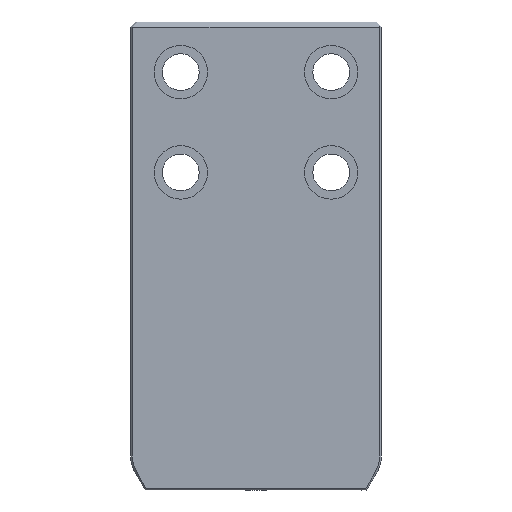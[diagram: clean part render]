
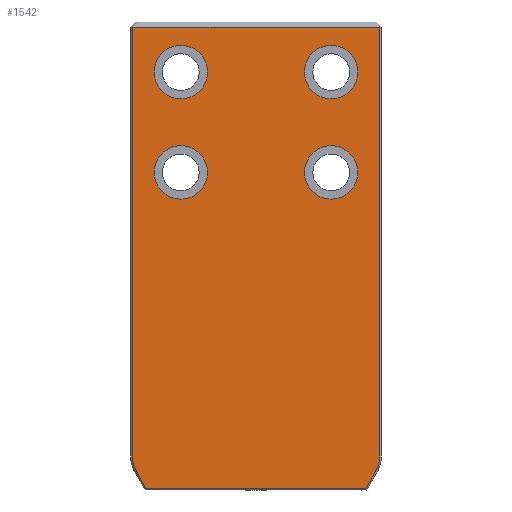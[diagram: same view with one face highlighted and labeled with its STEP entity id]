
A CAD part, front view. The second image highlights one B-rep face of the part: STEP entity #1542.
In plain terms, the highlighted planar face has unit normal (0, -1, 0).
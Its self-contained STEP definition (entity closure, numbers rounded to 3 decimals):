
#109=VERTEX_POINT(' ',#110);
#110=CARTESIAN_POINT('',(45.,-50.,-106.));
#111=VERTEX_POINT(' ',#112);
#112=CARTESIAN_POINT('',(45.,-50.,-74.));
#117=VERTEX_POINT(' ',#118);
#118=CARTESIAN_POINT('',(-45.,-50.,-46.));
#119=VERTEX_POINT(' ',#120);
#120=CARTESIAN_POINT('',(-45.,-50.,-14.));
#137=VERTEX_POINT(' ',#138);
#138=CARTESIAN_POINT('',(-45.,-50.,-106.));
#139=VERTEX_POINT(' ',#140);
#140=CARTESIAN_POINT('',(-45.,-50.,-74.));
#145=VERTEX_POINT(' ',#146);
#146=CARTESIAN_POINT('',(45.,-50.,-46.));
#147=VERTEX_POINT(' ',#148);
#148=CARTESIAN_POINT('',(45.,-50.,-14.));
#153=VERTEX_POINT(' ',#154);
#154=CARTESIAN_POINT('',(65.762,-50.,-279.));
#159=VERTEX_POINT(' ',#160);
#160=CARTESIAN_POINT('',(71.454,-50.,-269.141));
#163=VERTEX_POINT(' ',#164);
#164=CARTESIAN_POINT('',(74.,-50.,-259.641));
#167=VERTEX_POINT(' ',#168);
#168=CARTESIAN_POINT('',(74.,-50.,-120.));
#171=VERTEX_POINT(' ',#172);
#172=CARTESIAN_POINT('',(74.,-50.,-3.));
#177=VERTEX_POINT(' ',#178);
#178=CARTESIAN_POINT('',(-73.775,-50.,-3.));
#181=VERTEX_POINT(' ',#182);
#182=CARTESIAN_POINT('',(-74.,-50.,-3.112));
#187=VERTEX_POINT(' ',#188);
#188=CARTESIAN_POINT('',(-65.762,-50.,-279.));
#191=VERTEX_POINT(' ',#192);
#192=CARTESIAN_POINT('',(-74.,-50.,-120.));
#193=VERTEX_POINT(' ',#194);
#194=CARTESIAN_POINT('',(-74.,-50.,-259.641));
#195=VERTEX_POINT(' ',#196);
#196=CARTESIAN_POINT('',(-71.454,-50.,-269.141));
#363=CIRCLE('',#364,16.);
#364=AXIS2_PLACEMENT_3D('',#365,#366,#367);
#365=CARTESIAN_POINT('',(45.,-50.,-90.));
#366=DIRECTION('',(0.,1.,0.));
#367=DIRECTION('',(-1.,0.,0.));
#368=EDGE_CURVE(' ',#109,#111,#363,.F.);
#379=CIRCLE('',#380,16.);
#380=AXIS2_PLACEMENT_3D('',#381,#382,#383);
#381=CARTESIAN_POINT('',(45.,-50.,-90.));
#382=DIRECTION('',(0.,1.,0.));
#383=DIRECTION('',(1.,0.,0.));
#384=EDGE_CURVE(' ',#111,#109,#379,.F.);
#397=CIRCLE('',#398,16.);
#398=AXIS2_PLACEMENT_3D('',#399,#400,#401);
#399=CARTESIAN_POINT('',(-45.,-50.,-30.));
#400=DIRECTION('',(0.,1.,0.));
#401=DIRECTION('',(-1.,0.,0.));
#402=EDGE_CURVE(' ',#117,#119,#397,.F.);
#413=CIRCLE('',#414,16.);
#414=AXIS2_PLACEMENT_3D('',#415,#416,#417);
#415=CARTESIAN_POINT('',(-45.,-50.,-30.));
#416=DIRECTION('',(0.,1.,0.));
#417=DIRECTION('',(1.,0.,0.));
#418=EDGE_CURVE(' ',#119,#117,#413,.F.);
#487=CIRCLE('',#488,16.);
#488=AXIS2_PLACEMENT_3D('',#489,#490,#491);
#489=CARTESIAN_POINT('',(-45.,-50.,-90.));
#490=DIRECTION('',(0.,1.,0.));
#491=DIRECTION('',(-1.,0.,0.));
#492=EDGE_CURVE(' ',#137,#139,#487,.F.);
#509=CIRCLE('',#510,16.);
#510=AXIS2_PLACEMENT_3D('',#511,#512,#513);
#511=CARTESIAN_POINT('',(-45.,-50.,-90.));
#512=DIRECTION('',(0.,1.,0.));
#513=DIRECTION('',(1.,0.,0.));
#514=EDGE_CURVE(' ',#139,#137,#509,.F.);
#521=CIRCLE('',#522,16.);
#522=AXIS2_PLACEMENT_3D('',#523,#524,#525);
#523=CARTESIAN_POINT('',(45.,-50.,-30.));
#524=DIRECTION('',(0.,1.,0.));
#525=DIRECTION('',(-1.,0.,0.));
#526=EDGE_CURVE(' ',#145,#147,#521,.F.);
#543=CIRCLE('',#544,16.);
#544=AXIS2_PLACEMENT_3D('',#545,#546,#547);
#545=CARTESIAN_POINT('',(45.,-50.,-30.));
#546=DIRECTION('',(0.,1.,0.));
#547=DIRECTION('',(1.,0.,0.));
#548=EDGE_CURVE(' ',#147,#145,#543,.F.);
#570=LINE('',#571,#572);
#571=CARTESIAN_POINT('',(71.454,-50.,-269.141));
#572=VECTOR('',#573,1.);
#573=DIRECTION('',(-0.5,0.,-0.866));
#574=EDGE_CURVE(' ',#159,#153,#570,.T.);
#586=CIRCLE('',#587,19.);
#587=AXIS2_PLACEMENT_3D('',#588,#589,#590);
#588=CARTESIAN_POINT('',(55.,-50.,-259.641));
#589=DIRECTION('',(0.,1.,0.));
#590=DIRECTION('',(-0.966,0.,0.259));
#591=EDGE_CURVE(' ',#163,#159,#586,.T.);
#597=LINE('',#598,#599);
#598=CARTESIAN_POINT('',(74.,-50.,-120.));
#599=VECTOR('',#600,1.);
#600=DIRECTION('',(0.,0.,-1.));
#601=EDGE_CURVE(' ',#167,#163,#597,.T.);
#612=LINE('',#613,#614);
#613=CARTESIAN_POINT('',(74.,-50.,2.657));
#614=VECTOR('',#615,1.);
#615=DIRECTION('',(0.,0.,-1.));
#616=EDGE_CURVE(' ',#171,#167,#612,.T.);
#637=LINE('',#638,#639);
#638=CARTESIAN_POINT('',(-91.971,-50.,-3.));
#639=VECTOR('',#640,1.);
#640=DIRECTION('',(1.,0.,0.));
#641=EDGE_CURVE(' ',#177,#171,#637,.T.);
#652=LINE('',#653,#654);
#653=CARTESIAN_POINT('',(-13.555,-50.,27.11));
#654=VECTOR('',#655,1.);
#655=DIRECTION('',(-0.894,0.,-0.447));
#656=EDGE_CURVE(' ',#181,#177,#652,.F.);
#682=LINE('',#683,#684);
#683=CARTESIAN_POINT('',(-75.12,-50.,-279.));
#684=VECTOR('',#685,1.);
#685=DIRECTION('',(1.,0.,0.));
#686=EDGE_CURVE(' ',#187,#153,#682,.T.);
#687=LINE('',#688,#689);
#688=CARTESIAN_POINT('',(-74.,-50.,-120.));
#689=VECTOR('',#690,1.);
#690=DIRECTION('',(0.,0.,1.));
#691=EDGE_CURVE(' ',#191,#181,#687,.T.);
#692=LINE('',#693,#694);
#693=CARTESIAN_POINT('',(-74.,-50.,-259.641));
#694=VECTOR('',#695,1.);
#695=DIRECTION('',(0.,0.,1.));
#696=EDGE_CURVE(' ',#193,#191,#692,.T.);
#697=CIRCLE('',#698,19.);
#698=AXIS2_PLACEMENT_3D('',#699,#700,#701);
#699=CARTESIAN_POINT('',(-55.,-50.,-259.641));
#700=DIRECTION('',(0.,1.,0.));
#701=DIRECTION('',(0.966,0.,0.259));
#702=EDGE_CURVE(' ',#195,#193,#697,.T.);
#703=LINE('',#704,#705);
#704=CARTESIAN_POINT('',(-62.934,-50.,-283.899));
#705=VECTOR('',#706,1.);
#706=DIRECTION('',(-0.5,0.,0.866));
#707=EDGE_CURVE(' ',#187,#195,#703,.T.);
#1508=ORIENTED_EDGE('',*,*,#691,.F.);
#1509=ORIENTED_EDGE('',*,*,#696,.F.);
#1510=ORIENTED_EDGE('',*,*,#702,.F.);
#1511=ORIENTED_EDGE('',*,*,#707,.F.);
#1512=ORIENTED_EDGE('',*,*,#686,.T.);
#1513=ORIENTED_EDGE('',*,*,#574,.F.);
#1514=ORIENTED_EDGE('',*,*,#591,.F.);
#1515=ORIENTED_EDGE('',*,*,#601,.F.);
#1516=ORIENTED_EDGE('',*,*,#616,.F.);
#1517=ORIENTED_EDGE('',*,*,#641,.F.);
#1518=ORIENTED_EDGE('',*,*,#656,.F.);
#1519=EDGE_LOOP('',(#1508,#1509,#1510,#1511,#1512,#1513,#1514,#1515,#1516,#1517,#1518));
#1520=FACE_OUTER_BOUND('',#1519,.T.);
#1521=ORIENTED_EDGE('',*,*,#548,.F.);
#1522=ORIENTED_EDGE('',*,*,#526,.F.);
#1523=EDGE_LOOP('',(#1521,#1522));
#1524=FACE_BOUND('',#1523,.T.);
#1525=ORIENTED_EDGE('',*,*,#514,.F.);
#1526=ORIENTED_EDGE('',*,*,#492,.F.);
#1527=EDGE_LOOP('',(#1525,#1526));
#1528=FACE_BOUND('',#1527,.T.);
#1529=ORIENTED_EDGE('',*,*,#418,.F.);
#1530=ORIENTED_EDGE('',*,*,#402,.F.);
#1531=EDGE_LOOP('',(#1529,#1530));
#1532=FACE_BOUND('',#1531,.T.);
#1533=ORIENTED_EDGE('',*,*,#384,.F.);
#1534=ORIENTED_EDGE('',*,*,#368,.F.);
#1535=EDGE_LOOP('',(#1533,#1534));
#1536=FACE_BOUND('',#1535,.T.);
#1537=PLANE('',#1538);
#1538=AXIS2_PLACEMENT_3D('',#1539,#1540,#1541);
#1539=CARTESIAN_POINT('',(0.,-50.,0.));
#1540=DIRECTION('',(0.,-1.,0.));
#1541=DIRECTION('',(0.,0.,-1.));
#1542=ADVANCED_FACE('',(#1520,#1524,#1528,#1532,#1536),#1537,.T.);
